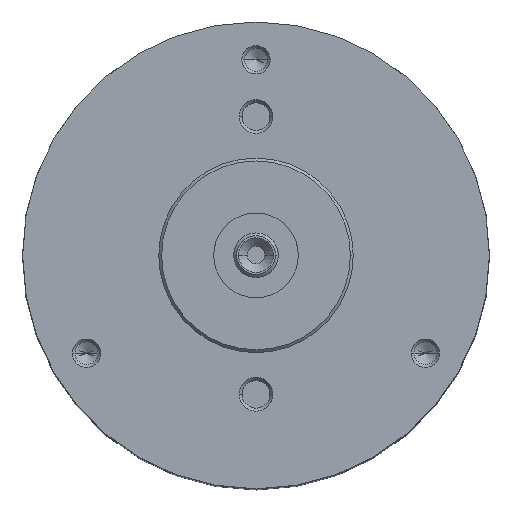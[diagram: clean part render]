
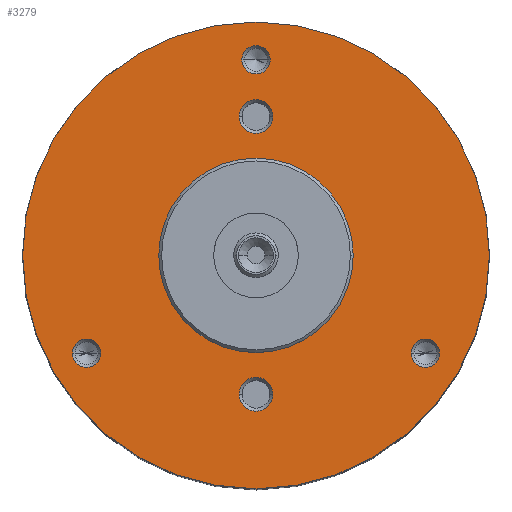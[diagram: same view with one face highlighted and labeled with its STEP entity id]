
A CAD part, top view. The second image highlights one B-rep face of the part: STEP entity #3279.
In plain terms, the highlighted planar face has unit normal (0, 0, 1).
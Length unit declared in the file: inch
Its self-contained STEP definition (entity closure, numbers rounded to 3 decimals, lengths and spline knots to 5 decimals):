
#556 = VERTEX_POINT ( 'NONE', #2250 ) ;
#739 = EDGE_CURVE ( 'NONE', #556, #8016, #2684, .T. ) ;
#2250 = CARTESIAN_POINT ( 'NONE',  ( -0.0502, 0.693, 0. ) ) ;
#2663 = DIRECTION ( 'NONE',  ( 1., 0., 0. ) ) ;
#2664 = DIRECTION ( 'NONE',  ( 0., 0., 1. ) ) ;
#2665 = AXIS2_PLACEMENT_3D ( 'NONE', #2672, #2664, #2663 ) ;
#2672 = CARTESIAN_POINT ( 'NONE',  ( 0., 0.693, 0. ) ) ;
#2684 = CIRCLE ( 'NONE', #2665, 0.0502 ) ;
#3118 = ORIENTED_EDGE ( 'NONE', *, *, #5783, .F. ) ;
#3209 = FACE_BOUND ( 'NONE', #7508, .T. ) ;
#3253 = FACE_BOUND ( 'NONE', #7506, .T. ) ;
#3279 = ADVANCED_FACE ( 'NONE', ( #3209, #3253, #3293, #3292, #3299, #3297, #3291 ), #7666, .T. ) ;
#3291 = FACE_BOUND ( 'NONE', #5952, .T. ) ;
#3292 = FACE_BOUND ( 'NONE', #5703, .T. ) ;
#3293 = FACE_BOUND ( 'NONE', #4537, .T. ) ;
#3297 = FACE_OUTER_BOUND ( 'NONE', #5719, .T. ) ;
#3299 = FACE_BOUND ( 'NONE', #5674, .T. ) ;
#3322 = AXIS2_PLACEMENT_3D ( 'NONE', #3349, #3346, #3345 ) ;
#3326 = CIRCLE ( 'NONE', #3322, 0.06004 ) ;
#3327 = CIRCLE ( 'NONE', #3386, 0.0502 ) ;
#3340 = AXIS2_PLACEMENT_3D ( 'NONE', #3385, #3384, #3383 ) ;
#3345 = DIRECTION ( 'NONE',  ( 1., 0., 0. ) ) ;
#3346 = DIRECTION ( 'NONE',  ( 0., 0., 1. ) ) ;
#3349 = CARTESIAN_POINT ( 'NONE',  ( 0., -0.492, 0. ) ) ;
#3350 = DIRECTION ( 'NONE',  ( 1., 0., 0. ) ) ;
#3351 = DIRECTION ( 'NONE',  ( 0., 0., 1. ) ) ;
#3352 = CARTESIAN_POINT ( 'NONE',  ( 0., 0.492, 0. ) ) ;
#3353 = AXIS2_PLACEMENT_3D ( 'NONE', #3352, #3351, #3350 ) ;
#3359 = CIRCLE ( 'NONE', #3353, 0.06004 ) ;
#3364 = DIRECTION ( 'NONE',  ( 0., 0., 1. ) ) ;
#3365 = CARTESIAN_POINT ( 'NONE',  ( 0., 0.693, 0. ) ) ;
#3366 = AXIS2_PLACEMENT_3D ( 'NONE', #3365, #3364, #3418 ) ;
#3367 = CIRCLE ( 'NONE', #3366, 0.0502 ) ;
#3376 = DIRECTION ( 'NONE',  ( 1., 0., 0. ) ) ;
#3377 = DIRECTION ( 'NONE',  ( 0., 0., 1. ) ) ;
#3380 = CIRCLE ( 'NONE', #3454, 0.3445 ) ;
#3382 = CARTESIAN_POINT ( 'NONE',  ( 0.60016, -0.3465, 0. ) ) ;
#3383 = DIRECTION ( 'NONE',  ( 1., 0., 0. ) ) ;
#3384 = DIRECTION ( 'NONE',  ( 0., 0., 1. ) ) ;
#3385 = CARTESIAN_POINT ( 'NONE',  ( -0.60016, -0.3465, 0. ) ) ;
#3386 = AXIS2_PLACEMENT_3D ( 'NONE', #3382, #3377, #3376 ) ;
#3388 = CIRCLE ( 'NONE', #3340, 0.0502 ) ;
#3396 = CARTESIAN_POINT ( 'NONE',  ( 0., 0., 0. ) ) ;
#3397 = CARTESIAN_POINT ( 'NONE',  ( 0., 0., 0. ) ) ;
#3418 = DIRECTION ( 'NONE',  ( 1., 0., 0. ) ) ;
#3432 = DIRECTION ( 'NONE',  ( 1., 0., 0. ) ) ;
#3433 = DIRECTION ( 'NONE',  ( 0., 0., 1. ) ) ;
#3441 = AXIS2_PLACEMENT_3D ( 'NONE', #3397, #3433, #3432 ) ;
#3450 = CIRCLE ( 'NONE', #3441, 0.827 ) ;
#3452 = DIRECTION ( 'NONE',  ( 1., 0., 0. ) ) ;
#3453 = DIRECTION ( 'NONE',  ( 0., 0., 1. ) ) ;
#3454 = AXIS2_PLACEMENT_3D ( 'NONE', #3396, #3453, #3452 ) ;
#3555 = CARTESIAN_POINT ( 'NONE',  ( -0.827, 0., 0. ) ) ;
#3557 = CARTESIAN_POINT ( 'NONE',  ( 0., 0., 0. ) ) ;
#3558 = AXIS2_PLACEMENT_3D ( 'NONE', #3557, #3614, #3613 ) ;
#3561 = CIRCLE ( 'NONE', #3558, 0.3445 ) ;
#3569 = CARTESIAN_POINT ( 'NONE',  ( -0.3445, 0., 0. ) ) ;
#3576 = CARTESIAN_POINT ( 'NONE',  ( 0.3445, 0., 0. ) ) ;
#3613 = DIRECTION ( 'NONE',  ( 1., 0., 0. ) ) ;
#3614 = DIRECTION ( 'NONE',  ( 0., 0., 1. ) ) ;
#3758 = CARTESIAN_POINT ( 'NONE',  ( 0.827, 0., 0. ) ) ;
#3774 = DIRECTION ( 'NONE',  ( 1., 0., 0. ) ) ;
#3775 = DIRECTION ( 'NONE',  ( 0., 0., 1. ) ) ;
#3776 = CARTESIAN_POINT ( 'NONE',  ( 0., 0., 0. ) ) ;
#3777 = AXIS2_PLACEMENT_3D ( 'NONE', #3776, #3775, #3774 ) ;
#3778 = CIRCLE ( 'NONE', #3777, 0.827 ) ;
#3802 = ORIENTED_EDGE ( 'NONE', *, *, #5880, .F. ) ;
#3910 = ORIENTED_EDGE ( 'NONE', *, *, #6224, .T. ) ;
#4051 = ORIENTED_EDGE ( 'NONE', *, *, #7418, .F. ) ;
#4449 = CIRCLE ( 'NONE', #4560, 0.0502 ) ;
#4506 = ORIENTED_EDGE ( 'NONE', *, *, #4572, .F. ) ;
#4526 = ORIENTED_EDGE ( 'NONE', *, *, #8041, .F. ) ;
#4537 = EDGE_LOOP ( 'NONE', ( #3118, #5774 ) ) ;
#4560 = AXIS2_PLACEMENT_3D ( 'NONE', #4564, #4566, #4613 ) ;
#4564 = CARTESIAN_POINT ( 'NONE',  ( 0.60016, -0.3465, 0. ) ) ;
#4566 = DIRECTION ( 'NONE',  ( 0., 0., 1. ) ) ;
#4572 = EDGE_CURVE ( 'NONE', #8347, #8359, #3359, .T. ) ;
#4613 = DIRECTION ( 'NONE',  ( 1., 0., 0. ) ) ;
#4694 = CARTESIAN_POINT ( 'NONE',  ( 0.65035, -0.3465, 0. ) ) ;
#4717 = CARTESIAN_POINT ( 'NONE',  ( 0.54996, -0.3465, 0. ) ) ;
#4752 = EDGE_CURVE ( 'NONE', #8037, #8040, #3326, .T. ) ;
#4877 = CARTESIAN_POINT ( 'NONE',  ( -0.54996, -0.3465, 0. ) ) ;
#4906 = DIRECTION ( 'NONE',  ( 1., 0., 0. ) ) ;
#4907 = DIRECTION ( 'NONE',  ( 0., 0., 1. ) ) ;
#4908 = CARTESIAN_POINT ( 'NONE',  ( -0.60016, -0.3465, 0. ) ) ;
#4909 = AXIS2_PLACEMENT_3D ( 'NONE', #4908, #4907, #4906 ) ;
#4913 = CIRCLE ( 'NONE', #4909, 0.0502 ) ;
#4924 = CARTESIAN_POINT ( 'NONE',  ( -0.65035, -0.3465, 0. ) ) ;
#5245 = CARTESIAN_POINT ( 'NONE',  ( 0.0502, 0.693, 0. ) ) ;
#5247 = DIRECTION ( 'NONE',  ( 0., 0., 1. ) ) ;
#5258 = DIRECTION ( 'NONE',  ( 1., 0., 0. ) ) ;
#5259 = AXIS2_PLACEMENT_3D ( 'NONE', #5277, #5247, #5258 ) ;
#5268 = CIRCLE ( 'NONE', #5259, 0.06004 ) ;
#5277 = CARTESIAN_POINT ( 'NONE',  ( 0., 0.492, 0. ) ) ;
#5358 = CARTESIAN_POINT ( 'NONE',  ( -0.06004, -0.492, 0. ) ) ;
#5363 = CARTESIAN_POINT ( 'NONE',  ( 0.06004, -0.492, 0. ) ) ;
#5380 = DIRECTION ( 'NONE',  ( 1., 0., 0. ) ) ;
#5381 = DIRECTION ( 'NONE',  ( 0., 0., 1. ) ) ;
#5382 = CARTESIAN_POINT ( 'NONE',  ( 0., -0.492, 0. ) ) ;
#5383 = AXIS2_PLACEMENT_3D ( 'NONE', #5382, #5381, #5380 ) ;
#5384 = CIRCLE ( 'NONE', #5383, 0.06004 ) ;
#5472 = ORIENTED_EDGE ( 'NONE', *, *, #4752, .F. ) ;
#5596 = EDGE_CURVE ( 'NONE', #7904, #7908, #3388, .T. ) ;
#5674 = EDGE_LOOP ( 'NONE', ( #5751, #5745 ) ) ;
#5682 = ORIENTED_EDGE ( 'NONE', *, *, #7491, .T. ) ;
#5703 = EDGE_LOOP ( 'NONE', ( #5709, #5785 ) ) ;
#5705 = EDGE_CURVE ( 'NONE', #7852, #7864, #3327, .T. ) ;
#5709 = ORIENTED_EDGE ( 'NONE', *, *, #5705, .F. ) ;
#5719 = EDGE_LOOP ( 'NONE', ( #5682, #3910 ) ) ;
#5745 = ORIENTED_EDGE ( 'NONE', *, *, #7917, .F. ) ;
#5751 = ORIENTED_EDGE ( 'NONE', *, *, #5596, .F. ) ;
#5774 = ORIENTED_EDGE ( 'NONE', *, *, #739, .F. ) ;
#5783 = EDGE_CURVE ( 'NONE', #8016, #556, #3367, .T. ) ;
#5785 = ORIENTED_EDGE ( 'NONE', *, *, #7831, .F. ) ;
#5880 = EDGE_CURVE ( 'NONE', #7402, #7411, #3380, .T. ) ;
#5952 = EDGE_LOOP ( 'NONE', ( #3802, #4051 ) ) ;
#6224 = EDGE_CURVE ( 'NONE', #7355, #7482, #3450, .T. ) ;
#6349 = CARTESIAN_POINT ( 'NONE',  ( 0.06004, 0.492, 0. ) ) ;
#6435 = CARTESIAN_POINT ( 'NONE',  ( -0.06004, 0.492, 0. ) ) ;
#7355 = VERTEX_POINT ( 'NONE', #3555 ) ;
#7402 = VERTEX_POINT ( 'NONE', #3569 ) ;
#7411 = VERTEX_POINT ( 'NONE', #3576 ) ;
#7418 = EDGE_CURVE ( 'NONE', #7411, #7402, #3561, .T. ) ;
#7482 = VERTEX_POINT ( 'NONE', #3758 ) ;
#7491 = EDGE_CURVE ( 'NONE', #7482, #7355, #3778, .T. ) ;
#7506 = EDGE_LOOP ( 'NONE', ( #5472, #4526 ) ) ;
#7508 = EDGE_LOOP ( 'NONE', ( #4506, #7511 ) ) ;
#7511 = ORIENTED_EDGE ( 'NONE', *, *, #8023, .F. ) ;
#7664 = AXIS2_PLACEMENT_3D ( 'NONE', #7670, #7665, #7669 ) ;
#7665 = DIRECTION ( 'NONE',  ( 0., 0., 1. ) ) ;
#7666 = PLANE ( 'NONE',  #7664 ) ;
#7669 = DIRECTION ( 'NONE',  ( 1., 0., 0. ) ) ;
#7670 = CARTESIAN_POINT ( 'NONE',  ( 0., 0., 0. ) ) ;
#7831 = EDGE_CURVE ( 'NONE', #7864, #7852, #4449, .T. ) ;
#7852 = VERTEX_POINT ( 'NONE', #4694 ) ;
#7864 = VERTEX_POINT ( 'NONE', #4717 ) ;
#7904 = VERTEX_POINT ( 'NONE', #4877 ) ;
#7908 = VERTEX_POINT ( 'NONE', #4924 ) ;
#7917 = EDGE_CURVE ( 'NONE', #7908, #7904, #4913, .T. ) ;
#8016 = VERTEX_POINT ( 'NONE', #5245 ) ;
#8023 = EDGE_CURVE ( 'NONE', #8359, #8347, #5268, .T. ) ;
#8037 = VERTEX_POINT ( 'NONE', #5363 ) ;
#8040 = VERTEX_POINT ( 'NONE', #5358 ) ;
#8041 = EDGE_CURVE ( 'NONE', #8040, #8037, #5384, .T. ) ;
#8347 = VERTEX_POINT ( 'NONE', #6349 ) ;
#8359 = VERTEX_POINT ( 'NONE', #6435 ) ;
